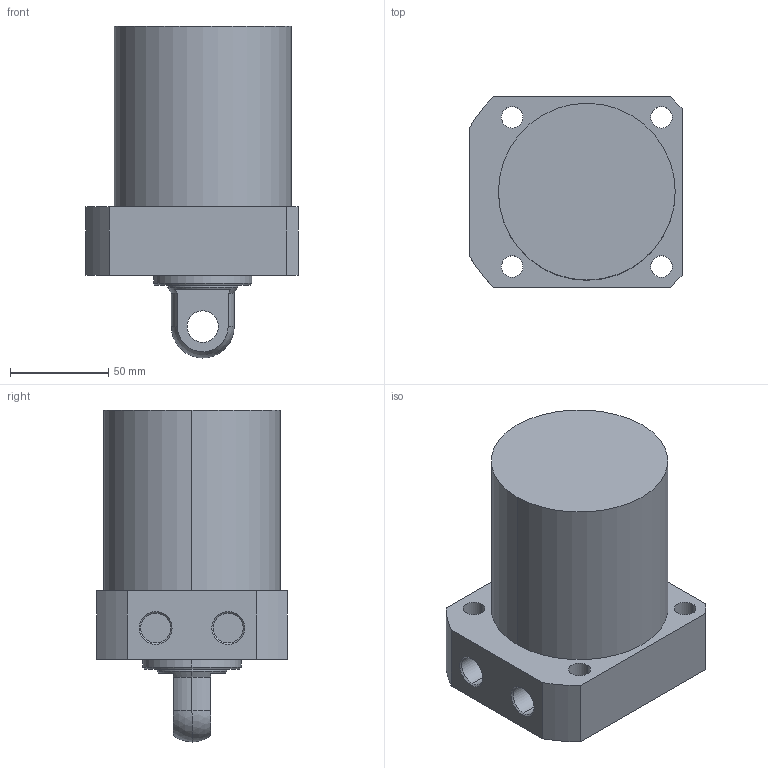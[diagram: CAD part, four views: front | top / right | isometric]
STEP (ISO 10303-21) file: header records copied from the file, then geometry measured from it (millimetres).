
FILE_DESCRIPTION (( 'STEP AP203' ), '1' );
FILE_NAME ('CLLR-090CP-070.STEP', '2019-12-19T03:25:58', ( '' ), ( '' ), 'SwSTEP 2.0', 'SolidWorks 2015', '' );
FILE_SCHEMA (( 'CONFIG_CONTROL_DESIGN' ));
Length unit declared in the file: millimetre
Products named in the file (1): CLLR-090CP-070
Bounding box: 108 x 97 x 169 mm (x, y, z)
Volume: 947750.7 mm3; surface area: 70712 mm2
Topology: 1 solids, 1 shells, 57 faces, 135 edges, 87 vertices
Faces by surface type: cylinder 29, plane 18, cone 8, sphere 2
Entity records: 1770 total; most frequent: DIRECTION 319, CARTESIAN_POINT 292, ORIENTED_EDGE 270, EDGE_CURVE 135, AXIS2_PLACEMENT_3D 130, VERTEX_POINT 87, EDGE_LOOP 74, CIRCLE 72
